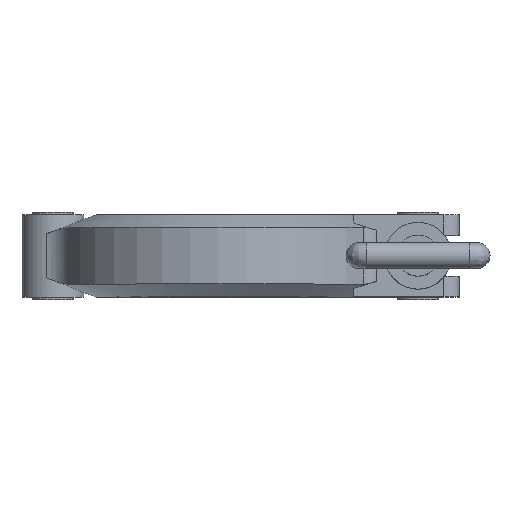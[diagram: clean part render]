
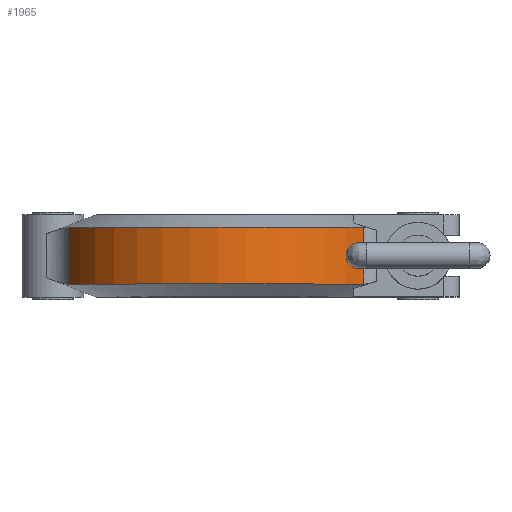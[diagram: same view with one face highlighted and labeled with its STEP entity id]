
A CAD part, top view. The second image highlights one B-rep face of the part: STEP entity #1965.
In plain terms, the highlighted cylindrical face has radius 32 mm (diameter 64 mm), a partial arc.
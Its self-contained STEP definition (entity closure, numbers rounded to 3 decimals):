
#114=CYLINDRICAL_SURFACE('',#2161,32.);
#239=FACE_OUTER_BOUND('',#357,.T.);
#357=EDGE_LOOP('',(#1718,#1719,#1720,#1721));
#474=LINE('',#3302,#612);
#510=LINE('',#3547,#648);
#612=VECTOR('',#2476,11.);
#648=VECTOR('',#2594,11.);
#738=CIRCLE('',#2162,32.);
#739=CIRCLE('',#2163,32.);
#880=VERTEX_POINT('',#3281);
#883=VERTEX_POINT('',#3293);
#932=VERTEX_POINT('',#3529);
#933=VERTEX_POINT('',#3538);
#1129=EDGE_CURVE('',#883,#880,#474,.T.);
#1204=EDGE_CURVE('',#933,#932,#510,.T.);
#1226=EDGE_CURVE('',#883,#932,#738,.T.);
#1227=EDGE_CURVE('',#880,#933,#739,.T.);
#1718=ORIENTED_EDGE('',*,*,#1129,.F.);
#1719=ORIENTED_EDGE('',*,*,#1226,.T.);
#1720=ORIENTED_EDGE('',*,*,#1204,.F.);
#1721=ORIENTED_EDGE('',*,*,#1227,.F.);
#1965=ADVANCED_FACE('',(#239),#114,.T.);
#2161=AXIS2_PLACEMENT_3D('',#3606,#2675,#2676);
#2162=AXIS2_PLACEMENT_3D('',#3607,#2677,#2678);
#2163=AXIS2_PLACEMENT_3D('',#3608,#2679,#2680);
#2476=DIRECTION('',(0.,-1.,0.));
#2594=DIRECTION('',(0.,1.,0.));
#2675=DIRECTION('center_axis',(0.,-1.,0.));
#2676=DIRECTION('ref_axis',(1.,0.,0.));
#2677=DIRECTION('center_axis',(0.,-1.,0.));
#2678=DIRECTION('ref_axis',(1.,0.,0.));
#2679=DIRECTION('center_axis',(0.,-1.,0.));
#2680=DIRECTION('ref_axis',(1.,0.,0.));
#3281=CARTESIAN_POINT('',(26.874,-5.5,17.371));
#3293=CARTESIAN_POINT('',(26.874,5.5,17.371));
#3302=CARTESIAN_POINT('',(26.874,-2.75,17.371));
#3529=CARTESIAN_POINT('',(-30.445,5.5,9.855));
#3538=CARTESIAN_POINT('',(-30.445,-5.5,9.855));
#3547=CARTESIAN_POINT('',(-30.445,-2.75,9.855));
#3606=CARTESIAN_POINT('Origin',(0.,-2.75,0.));
#3607=CARTESIAN_POINT('Origin',(0.,5.5,0.));
#3608=CARTESIAN_POINT('Origin',(0.,-5.5,0.));
